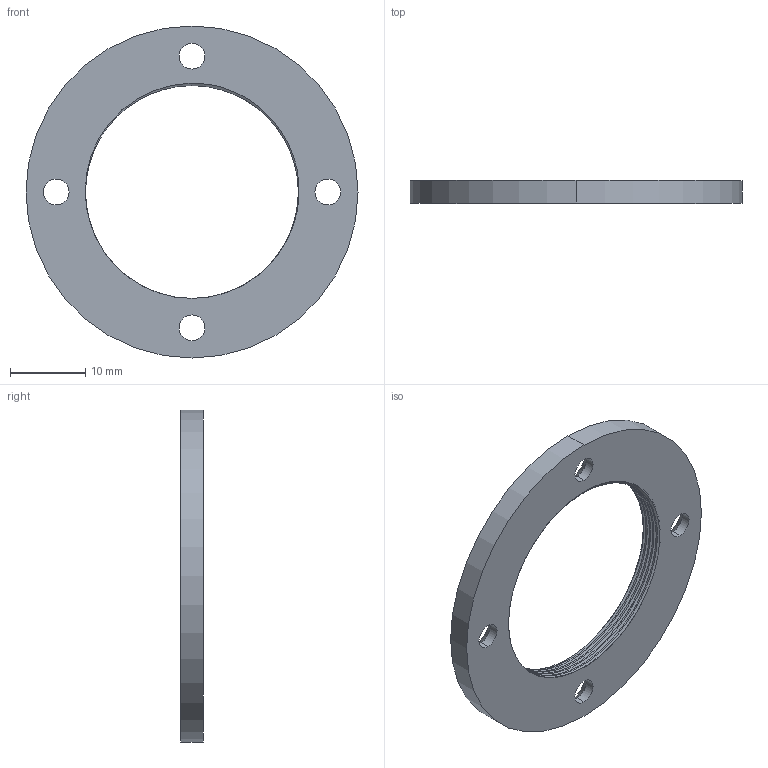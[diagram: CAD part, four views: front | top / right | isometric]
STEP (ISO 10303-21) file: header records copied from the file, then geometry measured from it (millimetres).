
FILE_DESCRIPTION (( 'STEP AP203' ), '1' );
FILE_NAME ('OPT_GRISM_0009_X279.STEP', '2026-05-03T16:31:28', ( '' ), ( '' ), 'SwSTEP 2.0', 'SolidWorks 2014', '' );
FILE_SCHEMA (( 'CONFIG_CONTROL_DESIGN' ));
Length unit declared in the file: millimetre
Products named in the file (1): OPT_GRISM_0009_X279
Bounding box: 44 x 3 x 44 mm (x, y, z)
Volume: 2467 mm3; surface area: 2653.7 mm2
Topology: 1 solids, 1 shells, 33 faces, 85 edges, 54 vertices
Faces by surface type: cylinder 21, cone 8, plane 2, bspline 2
Entity records: 1787 total; most frequent: CARTESIAN_POINT 939, ORIENTED_EDGE 170, DIRECTION 154, EDGE_CURVE 85, AXIS2_PLACEMENT_3D 63, VERTEX_POINT 54, EDGE_LOOP 43, FACE_OUTER_BOUND 33
